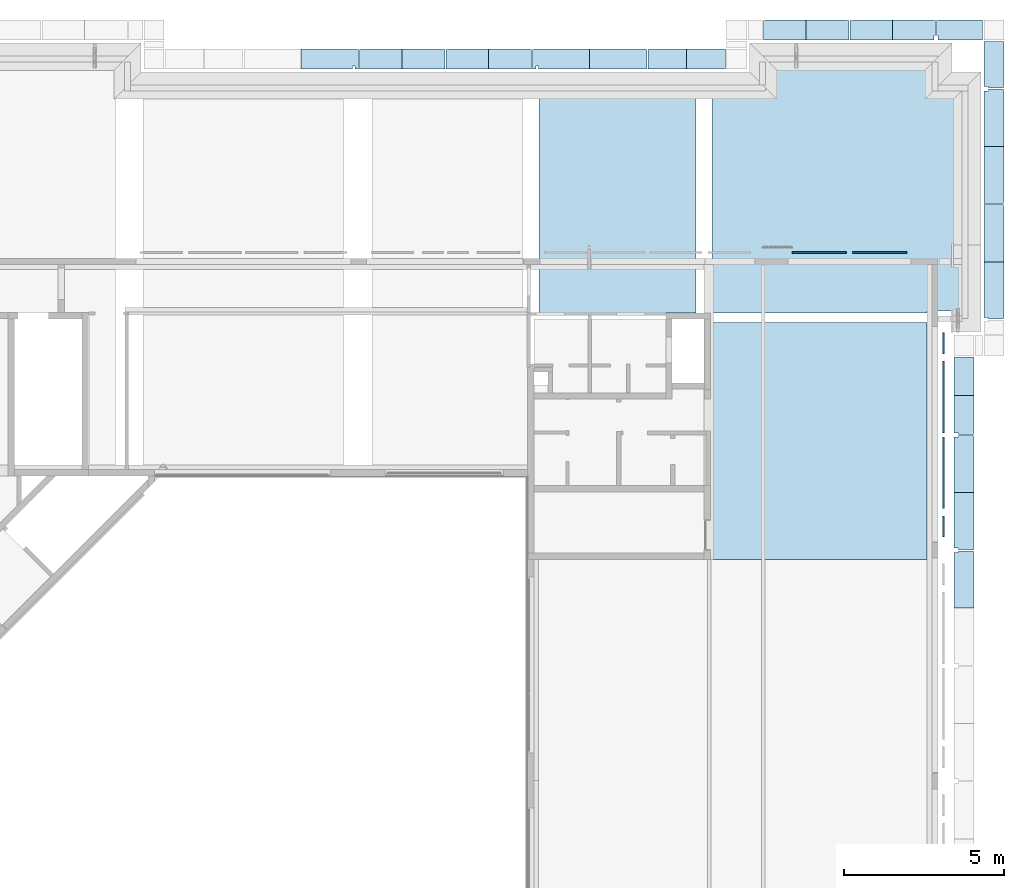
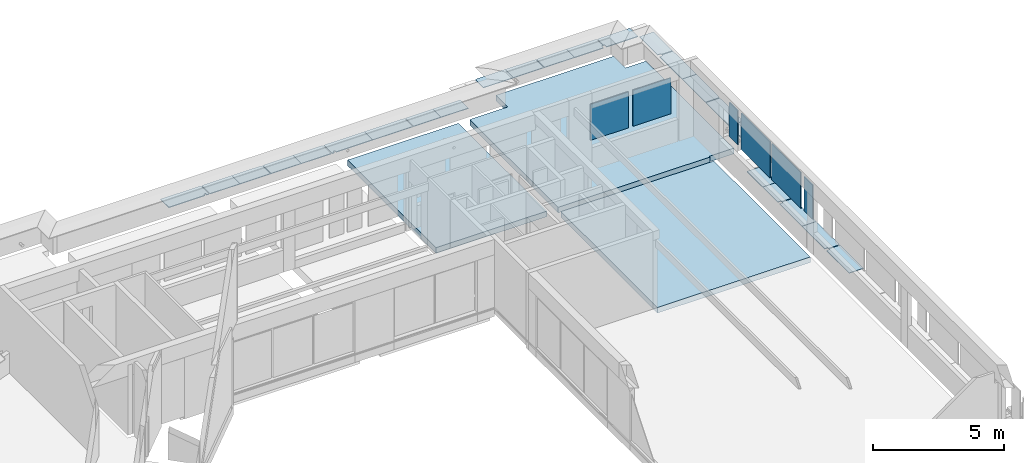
# One storey, part 7 of 38: 27 slabs, 6 plates.
"""IFC4X3_ADD2 building model written with IfcOpenShell, lengths in millimetres."""

import ifcopenshell
import ifcopenshell.guid

model = None  # the IFC model being written
_history = None  # IfcOwnerHistory: only IFC2X3 demands one
_inside = {}  # id of a spatial element -> (the spatial element, [elements in it])
_under = {}  # id of a project, library or spatial element -> (it, [spatial elements below it])
_declared = {}  # id of a project -> (the project, [libraries it declares])
_typed = {}  # id of a type object -> (the type object, [elements of that type])
_made_of = {}  # id of a material, layer set ... -> (it, [elements and type objects made of it])


def new_model(schema):
    """Start an empty IFC model of exactly this schema.

    Asked for "IFC4X3", IfcOpenShell would pick the latest addendum, in which some entities
    have other attributes; the version numbers below select the first issue.
    IFC2X3 requires an IfcOwnerHistory on every rooted entity: one is made here for all.
    """
    global model, _history
    if schema == "IFC4X3":
        model = ifcopenshell.file(schema_version=(4, 3, 0, 0))
    else:
        model = ifcopenshell.file(schema=schema)
    _inside.clear()
    _under.clear()
    _declared.clear()
    _typed.clear()
    _made_of.clear()
    _history = None
    if model.schema == "IFC2X3":
        org = make("IfcOrganization", Name="unknown")
        user = make(
            "IfcPersonAndOrganization",
            ThePerson=make("IfcPerson", FamilyName="unknown"),
            TheOrganization=org,
        )
        app = make(
            "IfcApplication",
            ApplicationDeveloper=org,
            Version="unknown",
            ApplicationFullName="unknown",
            ApplicationIdentifier="unknown",
        )
        _history = make(
            "IfcOwnerHistory",
            OwningUser=user,
            OwningApplication=app,
            ChangeAction="ADDED",
            CreationDate=0,
        )
    return model


def make(cls, **values):
    """One entity of the class cls with the attributes given. An attribute that is None is left unset."""
    return model.create_entity(
        cls, **{name: value for name, value in values.items() if value is not None}
    )


def rooted(cls, **values):
    """An entity with a GlobalId (a new one), such as an element, a storey or a relation."""
    return make(cls, GlobalId=ifcopenshell.guid.new(), OwnerHistory=_history, **values)


def si_unit(unit_type, name, prefix=None):
    """IfcSIUnit, for example si_unit("LENGTHUNIT", "METRE", prefix="MILLI")."""
    return make("IfcSIUnit", UnitType=unit_type, Prefix=prefix, Name=name)


def assignment(units):
    """IfcUnitAssignment: the units of a project."""
    return None if units is None else make("IfcUnitAssignment", Units=units)


def point(xyz):
    """IfcCartesianPoint."""
    return None if xyz is None else make("IfcCartesianPoint", Coordinates=xyz)


def direction(xyz):
    """IfcDirection."""
    return None if xyz is None else make("IfcDirection", DirectionRatios=xyz)


def frame(location, z_axis=None, x_axis=None):
    """IfcAxis2Placement3D, a coordinate frame: its origin and axes. An axis left out is left unset."""
    return make(
        "IfcAxis2Placement3D",
        Location=point(location),
        Axis=direction(z_axis),
        RefDirection=direction(x_axis),
    )


def frame_2d(location, x_axis=None):
    """IfcAxis2Placement2D, a coordinate frame in the plane: its origin and x axis."""
    return make(
        "IfcAxis2Placement2D", Location=point(location), RefDirection=direction(x_axis)
    )


def origin_with_axes():
    """The frame at (0, 0, 0) with the z axis (0, 0, 1) and the x axis (1, 0, 0) written out."""
    return frame((0.0, 0.0, 0.0), z_axis=(0.0, 0.0, 1.0), x_axis=(1.0, 0.0, 0.0))


def origin_2d_with_axis():
    """The frame at (0, 0) in the plane with the x axis (1, 0) written out."""
    return frame_2d((0.0, 0.0), x_axis=(1.0, 0.0))


def place(relative_to, where):
    """IfcLocalPlacement: puts the frame where relative to a parent placement (None: the world)."""
    return make(
        "IfcLocalPlacement", PlacementRelTo=relative_to, RelativePlacement=where
    )


def context(
    kind, dimensions, precision=None, world=None, true_north=None, identifier=None
):
    """IfcGeometricRepresentationContext, for example the 3D "Model" context."""
    return make(
        "IfcGeometricRepresentationContext",
        ContextIdentifier=identifier,
        ContextType=kind,
        CoordinateSpaceDimension=dimensions,
        Precision=precision,
        WorldCoordinateSystem=world,
        TrueNorth=true_north,
    )


def subcontext(parent, identifier, kind, view, scale=None):
    """IfcGeometricRepresentationSubContext, for example "Body" below "Model"."""
    return make(
        "IfcGeometricRepresentationSubContext",
        ContextIdentifier=identifier,
        ContextType=kind,
        ParentContext=parent,
        TargetScale=scale,
        TargetView=view,
    )


def project(units=None, contexts=None):
    """IfcProject with its units and contexts."""
    return rooted(
        "IfcProject",
        Name="project",
        RepresentationContexts=contexts,
        UnitsInContext=assignment(units),
    )


def spatial(cls, under=None, at=None, **own):
    """A site, building, storey or space (cls), placed at a placement, below another one or the project."""
    s = rooted(cls, ObjectPlacement=at, **own)
    if under is not None:
        _under.setdefault(under.id(), (under, []))[1].append(s)
    return s


def polyline(points):
    """IfcPolyline through the points."""
    return make("IfcPolyline", Points=[point(p) for p in points])


def profile(cls, at=None, kind="AREA", **sizes):
    """A parametric profile (cls). Its sizes go by their IFC names, for example OverallWidth=200.0."""
    return make(cls, ProfileType=kind, Position=at, **sizes)


def rectangle(**sizes):
    """IfcRectangleProfileDef."""
    return profile("IfcRectangleProfileDef", **sizes)


def outline(outer, holes=None, kind="AREA"):
    """IfcArbitraryClosedProfileDef: a profile drawn as a closed curve; with holes, ...WithVoids."""
    if holes is None:
        return make("IfcArbitraryClosedProfileDef", ProfileType=kind, OuterCurve=outer)
    return make(
        "IfcArbitraryProfileDefWithVoids",
        ProfileType=kind,
        OuterCurve=outer,
        InnerCurves=holes,
    )


def extrude(swept, where, along, depth):
    """IfcExtrudedAreaSolid: the profile swept, set in the frame where, extruded along a direction by depth."""
    return make(
        "IfcExtrudedAreaSolid",
        SweptArea=swept,
        Position=where,
        ExtrudedDirection=direction(along),
        Depth=depth,
    )


def shape(context_of_items, identifier, shape_type, items):
    """IfcShapeRepresentation: the items that make up one representation, for example the "Body"."""
    return make(
        "IfcShapeRepresentation",
        ContextOfItems=context_of_items,
        RepresentationIdentifier=identifier,
        RepresentationType=shape_type,
        Items=items,
    )


def source(mapping_origin, context_of_items, identifier, shape_type, items):
    """IfcRepresentationMap: a shape defined once, which mapped items show again and again."""
    return make(
        "IfcRepresentationMap",
        MappingOrigin=mapping_origin,
        MappedRepresentation=shape(context_of_items, identifier, shape_type, items),
    )


def transform(
    local_origin,
    x_axis=None,
    y_axis=None,
    z_axis=None,
    scale=None,
    scale2=None,
    scale3=None,
    uniform=True,
):
    """IfcCartesianTransformationOperator3D, or its non-uniform kind. x_axis, y_axis, z_axis: its Axis1, 2, 3."""
    if uniform:
        return make(
            "IfcCartesianTransformationOperator3D",
            Axis1=direction(x_axis),
            Axis2=direction(y_axis),
            LocalOrigin=point(local_origin),
            Scale=scale,
            Axis3=direction(z_axis),
        )
    return make(
        "IfcCartesianTransformationOperator3DnonUniform",
        Axis1=direction(x_axis),
        Axis2=direction(y_axis),
        LocalOrigin=point(local_origin),
        Scale=scale,
        Axis3=direction(z_axis),
        Scale2=scale2,
        Scale3=scale3,
    )


def mapped(mapping_source, mapping_target):
    """IfcMappedItem: shows the shape of a source again, moved by a transform."""
    return make(
        "IfcMappedItem", MappingSource=mapping_source, MappingTarget=mapping_target
    )


def material(Name=None, Category=None):
    """IfcMaterial."""
    return make("IfcMaterial", Name=Name, Category=Category)


def made_of(thing, what):
    """Note that an element or type object is made of a material, layer set ...; save() writes the relation."""
    if what is not None:
        _made_of.setdefault(what.id(), (what, []))[1].append(thing)
    return thing


def type_object(cls, material=None, **own):
    """A type object (cls), such as IfcWallType, which elements share."""
    return made_of(rooted(cls, **own), material)


def element(
    cls,
    number,
    at=None,
    inside=None,
    cuts=None,
    type_object=None,
    material=None,
    context=None,
    identifier="Body",
    shape_type=None,
    held_by="IfcProductDefinitionShape",
    body=None,
    shapes=None,
    **own,
):
    """One element of the class cls, such as IfcWall. Its Tag is "e" and its number.

    at: its placement. inside: the storey or other place that contains it. cuts: it is an
    opening in that element (IfcRelVoidsElement). A single representation is given by context,
    identifier, shape_type and body (its items); several are given by shapes. held_by: the class
    of the entity that holds the representations. save() writes the other relations.
    """
    e = rooted(cls, Tag="e%d" % number, ObjectPlacement=at, **own)
    if body is not None:
        shapes = [shape(context, identifier, shape_type, body)]
    if shapes is not None:
        e.Representation = make(held_by, Representations=shapes)
    if inside is not None:
        _inside.setdefault(inside.id(), (inside, []))[1].append(e)
    if cuts is not None:
        rooted(
            "IfcRelVoidsElement", RelatingBuildingElement=cuts, RelatedOpeningElement=e
        )
    if type_object is not None:
        _typed.setdefault(type_object.id(), (type_object, []))[1].append(e)
    return made_of(e, material)


def aggregate(whole, parts):
    """IfcRelAggregates: a whole, such as a stair, and the parts it consists of."""
    return rooted("IfcRelAggregates", RelatingObject=whole, RelatedObjects=parts)


def save(model, path):
    """Write the relations noted so far, then the file.

    IfcRelAggregates (storeys below a building ...), IfcRelContainedInSpatialStructure (elements
    in a storey), IfcRelDefinesByType, IfcRelAssociatesMaterial and IfcRelDeclares: one each for
    every whole, place, type object, material and project.
    """
    for whole, parts in _under.values():
        aggregate(whole, parts)
    for where, things in _inside.values():
        rooted(
            "IfcRelContainedInSpatialStructure",
            RelatedElements=things,
            RelatingStructure=where,
        )
    for kind, things in _typed.values():
        rooted("IfcRelDefinesByType", RelatedObjects=things, RelatingType=kind)
    for what, things in _made_of.values():
        rooted("IfcRelAssociatesMaterial", RelatedObjects=things, RelatingMaterial=what)
    for by, libraries in _declared.values():
        rooted("IfcRelDeclares", RelatingContext=by, RelatedDefinitions=libraries)
    model.write(path)


model = new_model("IFC4X3_ADD2")

# Units and contexts
model_context = context("Model", 3, precision=1e-05, world=origin_with_axes(), true_north=direction((0.0, 1.0)))
body_context = subcontext(model_context, "Body", "Model", "MODEL_VIEW")
ifc_project = project(units=[si_unit("LENGTHUNIT", "METRE", prefix="MILLI"), si_unit("AREAUNIT", "SQUARE_METRE"), si_unit("VOLUMEUNIT", "CUBIC_METRE"), si_unit("PLANEANGLEUNIT", "RADIAN"), si_unit("TIMEUNIT", "SECOND"), si_unit("MASSUNIT", "GRAM")], contexts=[model_context])

# Site, building, storey
site_placement = place(None, origin_with_axes())
site = spatial("IfcSite", under=ifc_project, at=site_placement, Name="Site", CompositionType="ELEMENT")
building_placement = place(site_placement, origin_with_axes())
building = spatial("IfcBuilding", under=site, at=building_placement, Name="IFC Building Story")
storey_placement = place(building_placement, frame((0.0, 0.0, 10800.0), z_axis=(0.0, 0.0, 1.0), x_axis=(1.0, 0.0, 0.0)))
storey = spatial("IfcBuildingStorey", under=building, at=storey_placement, Name="030", Elevation=10800.0)

# Plates
ifc_material_1 = material(Name="BB_Glas")
shared_shape_1 = source(origin_with_axes(), body_context, "Body", "SweptSolid", [
    extrude(rectangle(XDim=1602.000000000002, YDim=652.0000000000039, at=frame_2d((0.0, 0.0), x_axis=(0.0, 1.0))), frame((0.0, 0.0, -44.0), z_axis=(0.0, 0.0, 1.0), x_axis=(1.0, 0.0, 0.0)), (0.0, 0.0, 1.0), 44.0),
])
for number, where, z_axis, x_axis in (
    (1, (287.500000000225, 42736.0, 1765.0), (1.0, 0.0, 0.0), (0.0, -1.0, 0.0)),
    (2, (287.500000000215, 37024.0, 1765.0), (1.0, 0.0, 0.0), (0.0, -1.0, 0.0)),
):
    element("IfcPlate", number, at=place(storey_placement, frame(where, z_axis=z_axis, x_axis=x_axis)), inside=storey, material=ifc_material_1, Name="BB_07.06_Buitenbeglazing, rechthoekig_GMO:07.06.72#01_Drievoudige beglazing, 44 mm, A/A*/A", ObjectType="BB_07.06_Buitenbeglazing, rechthoekig_GMO:07.06.72#01_Drievoudige beglazing, 44 mm, A/A*/A", PredefinedType="USERDEFINED", context=body_context, shape_type="MappedRepresentation", body=[
        mapped(shared_shape_1, transform((0.0, 0.0, 0.0))),
    ])
shared_shape_2 = source(origin_with_axes(), body_context, "Body", "SweptSolid", [
    extrude(rectangle(XDim=2222.0, YDim=1680.000000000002, at=origin_2d_with_axis()), frame((0.0, 0.0, -44.0), z_axis=(0.0, 0.0, 1.0), x_axis=(1.0, 0.0, 0.0)), (0.0, 0.0, 1.0), 44.0),
])
for number, where, z_axis, x_axis in (
    (3, (287.500000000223, 41061.0, 1765.0), (1.0, 0.0, 0.0), (0.0, -1.0, 0.0)),
    (4, (287.50000000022, 38699.0, 1765.0), (1.0, 0.0, 0.0), (0.0, -1.0, 0.0)),
):
    element("IfcPlate", number, at=place(storey_placement, frame(where, z_axis=z_axis, x_axis=x_axis)), inside=storey, material=ifc_material_1, Name="BB_07.06_Buitenbeglazing, rechthoekig_GMO:07.06.72#01_Drievoudige beglazing, 44 mm, A/A*/A", ObjectType="BB_07.06_Buitenbeglazing, rechthoekig_GMO:07.06.72#01_Drievoudige beglazing, 44 mm, A/A*/A", PredefinedType="USERDEFINED", context=body_context, shape_type="MappedRepresentation", body=[
        mapped(shared_shape_2, transform((0.0, 0.0, 0.0))),
    ])
shared_shape_3 = source(origin_with_axes(), body_context, "Body", "SweptSolid", [
    extrude(rectangle(XDim=1680.000000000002, YDim=1680.000000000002, at=origin_2d_with_axis()), frame((0.0, 0.0, -44.0), z_axis=(0.0, 0.0, 1.0), x_axis=(1.0, 0.0, 0.0)), (0.0, 0.0, 1.0), 44.0),
])
for number, where, z_axis, x_axis in (
    (5, (-3605.0, 45587.5, 1765.0), (0.0, 1.0, 0.0), (1.0, 0.0, 0.0)),
    (6, (-1725.0, 45587.5, 1765.0), (0.0, 1.0, 0.0), (1.0, 0.0, 0.0)),
):
    element("IfcPlate", number, at=place(storey_placement, frame(where, z_axis=z_axis, x_axis=x_axis)), inside=storey, material=ifc_material_1, Name="BB_07.06_Buitenbeglazing, rechthoekig_GMO:07.06.72#01_Drievoudige beglazing, 44 mm, A/A*/A", ObjectType="BB_07.06_Buitenbeglazing, rechthoekig_GMO:07.06.72#01_Drievoudige beglazing, 44 mm, A/A*/A", PredefinedType="USERDEFINED", context=body_context, shape_type="MappedRepresentation", body=[
        mapped(shared_shape_3, transform((0.0, 0.0, 0.0))),
    ])

# Slabs
ifc_material_2 = material(Name="BB_Beton_Bestaand")
slab_type_1 = type_object("IfcSlabType", Name="BB_Beton_Bestaand 260", PredefinedType="FLOOR", material=ifc_material_2)
slab_1_placement = place(storey_placement, frame((-12350.00000000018, 50454.99999999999, -459.9999999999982), z_axis=(0.0, 0.0, 1.0), x_axis=(0.0, -1.0, 0.0)))
element("IfcSlab", 7, at=slab_1_placement, inside=storey, type_object=slab_type_1, Name="Floor:BB_XX_Vloer welfsels, 260 mm", ObjectType="Floor:BB_XX_Vloer welfsels, 260 mm", PredefinedType="FLOOR", context=body_context, shape_type="SweptSolid", body=[
    extrude(rectangle(XDim=6764.999999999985, YDim=4900.00000000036, at=frame_2d((0.0, 0.0), x_axis=(-1.0, 0.0))), frame((3382.499999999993, 2450.00000000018, 0.0), z_axis=(0.0, 0.0, 1.0), x_axis=(1.0, 0.0, 0.0)), (0.0, 0.0, 1.0), 259.999999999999),
])
slab_2_placement = place(storey_placement, frame((-6949.99999999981, 43689.99999999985, -459.9999999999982), z_axis=(0.0, 0.0, 1.0), x_axis=(1.0, 0.0, 0.0)))
element("IfcSlab", 8, at=slab_2_placement, inside=storey, type_object=slab_type_1, Name="Floor:BB_XX_Vloer welfsels, 260 mm", ObjectType="Floor:BB_XX_Vloer welfsels, 260 mm", PredefinedType="FLOOR", context=body_context, shape_type="SweptSolid", body=[
    extrude(outline(polyline([(2091.999999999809, -4194.99999999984), (2091.999999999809, -4250.000000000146), (-4612.999999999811, -4250.000000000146), (-4612.999999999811, 2514.999999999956), (-2933.000000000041, 2514.999999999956), (-2933.000000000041, 3414.999999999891), (2277.000000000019, 3414.999999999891), (2277.000000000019, 2515.000000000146), (3177.00000000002, 2515.000000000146), (3177.00000000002, -4194.99999999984), (2091.999999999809, -4194.99999999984)])), frame((4612.999999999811, 4250.000000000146, 0.0), z_axis=(0.0, 0.0, 1.0), x_axis=(1.0, 0.0, 0.0)), (0.0, 0.0, 1.0), 259.999999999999),
])
slab_3_placement = place(storey_placement, frame((-7000.0000000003, 43389.99999999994, -459.9999999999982), z_axis=(0.0, 0.0, 1.0), x_axis=(0.0, -1.0, 0.0)))
element("IfcSlab", 9, at=slab_3_placement, inside=storey, type_object=slab_type_1, Name="Floor:BB_XX_Vloer welfsels, 260 mm", ObjectType="Floor:BB_XX_Vloer welfsels, 260 mm", PredefinedType="FLOOR", context=body_context, shape_type="SweptSolid", body=[
    extrude(rectangle(XDim=7389.999999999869, YDim=6755.00000000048, at=frame_2d((0.0, 0.0), x_axis=(-1.0, 0.0))), frame((3694.999999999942, 3377.50000000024, 0.0), z_axis=(0.0, 0.0, 1.0), x_axis=(1.0, 0.0, 0.0)), (0.0, 0.0, 1.0), 259.999999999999),
])
ifc_material_3 = material(Name="Steel, Galvanized - looprooster")
slab_type_2 = type_object("IfcSlabType", Name="Steel, Galvanized - looprooster 30", PredefinedType="FLOOR", material=ifc_material_3)
slab_4_placement = place(storey_placement, frame((-19764.49796376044, 51289.99839785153, -350.0), z_axis=(0.0, 0.0, 1.0), x_axis=(1.0, 0.0, 0.0)))
element("IfcSlab", 10, at=slab_4_placement, inside=storey, type_object=slab_type_2, Name="Floor:GVH - Looprooster 30 mm", ObjectType="Floor:GVH - Looprooster 30 mm", PredefinedType="FLOOR", context=body_context, shape_type="SweptSolid", body=[
    extrude(outline(polyline([(240.297614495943, -176.9978943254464), (240.297614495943, -267.0010986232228), (-1359.200385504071, -267.0010986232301), (-1359.200385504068, 362.9989013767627), (373.307542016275, 362.9989013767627), (373.307542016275, 348.0011901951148), (425.2976144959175, 348.0011901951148), (425.2976144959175, -267.0010986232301), (320.2976144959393, -267.0010986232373), (320.2976144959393, -176.9978943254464), (240.297614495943, -176.9978943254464)])), frame((1359.200385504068, 267.0010986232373, 0.0), z_axis=(0.0, 0.0, 1.0), x_axis=(1.0, 0.0, 0.0)), (0.0, 0.0, 1.0), 29.99999999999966),
])
slab_5_placement = place(storey_placement, frame((-16614.99796376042, 51289.99839785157, -350.0), z_axis=(0.0, 0.0, 1.0), x_axis=(1.0, 0.0, 0.0)))
element("IfcSlab", 11, at=slab_5_placement, inside=storey, type_object=slab_type_2, Name="Floor:GVH - Looprooster 30 mm", ObjectType="Floor:GVH - Looprooster 30 mm", PredefinedType="FLOOR", context=body_context, shape_type="SweptSolid", body=[
    extrude(outline(polyline([(473.9993333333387, 200.0011600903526), (473.9993333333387, -415.000580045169), (-860.998666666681, -415.000580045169), (-860.998666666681, 214.9994199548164), (386.9993333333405, 214.9994199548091), (386.9993333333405, 200.0011600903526), (473.9993333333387, 200.0011600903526)])), frame((860.998666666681, 415.000580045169, 0.0), z_axis=(0.0, 0.0, 1.0), x_axis=(1.0, 0.0, 0.0)), (0.0, 0.0, 1.0), 29.99999999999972),
])
slab_6_placement = place(storey_placement, frame((-4015.00196376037, 52189.99783771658, -350.0), z_axis=(0.0, 0.0, 1.0), x_axis=(1.0, 0.0, 0.0)))
element("IfcSlab", 12, at=slab_6_placement, inside=storey, type_object=slab_type_2, Name="Floor:GVH - Looprooster 30 mm", ObjectType="Floor:GVH - Looprooster 30 mm", PredefinedType="FLOOR", context=body_context, shape_type="SweptSolid", body=[
    extrude(outline(polyline([(474.0006547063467, 200.0015335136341), (474.0006547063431, -415.0007667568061), (-861.0013452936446, -415.0007667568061), (-861.001345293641, 214.9992332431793), (387.0006905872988, 214.9992332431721), (387.0006905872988, 200.0015335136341), (474.0006547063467, 200.0015335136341)])), frame((861.001345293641, 415.0007667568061, 0.0), z_axis=(0.0, 0.0, 1.0), x_axis=(1.0, 0.0, 0.0)), (0.0, 0.0, 1.0), 29.99999999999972),
])
slab_7_placement = place(storey_placement, frame((589.998741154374, 41102.49796376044, -350.0), z_axis=(0.0, 0.0, 1.0), x_axis=(0.0, -1.0, 0.0)))
element("IfcSlab", 13, at=slab_7_placement, inside=storey, type_object=slab_type_2, Name="Floor:GVH - Looprooster 30 mm", ObjectType="Floor:GVH - Looprooster 30 mm", PredefinedType="FLOOR", context=body_context, shape_type="SweptSolid", body=[
    extrude(outline(polyline([(327.8744999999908, -202.4983463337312), (275.8744999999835, -202.4983463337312), (275.8744999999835, -347.5004367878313), (-879.6234999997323, -347.5004367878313), (-879.6234999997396, 282.4992199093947), (275.8744999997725, 282.4992199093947), (275.8744999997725, 267.4995632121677), (327.8744999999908, 267.4995632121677), (327.8744999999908, -202.4983463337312)])), frame((879.6234999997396, 347.5004367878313, 0.0), z_axis=(0.0, 0.0, 1.0), x_axis=(1.0, 0.0, 0.0)), (0.0, 0.0, 1.0), 29.99999999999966),
])
slab_8_placement = place(storey_placement, frame((589.998741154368, 38079.49796376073, -350.0), z_axis=(0.0, 0.0, 1.0), x_axis=(0.0, -1.0, 0.0)))
element("IfcSlab", 14, at=slab_8_placement, inside=storey, type_object=slab_type_2, Name="Floor:GVH - Looprooster 30 mm", ObjectType="Floor:GVH - Looprooster 30 mm", PredefinedType="FLOOR", context=body_context, shape_type="SweptSolid", body=[
    extrude(outline(polyline([(472.1244999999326, -202.4983406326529), (420.1244999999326, -202.4983406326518), (420.1244999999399, -347.5004386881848), (-1312.373499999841, -347.5004386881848), (-1312.373499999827, 282.4992180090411), (420.1244999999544, 282.4992180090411), (420.1244999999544, 267.4995613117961), (472.1244999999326, 267.4995613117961), (472.1244999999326, -202.4983406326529)])), frame((1312.373499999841, 347.5004386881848, 0.0), z_axis=(0.0, 0.0, 1.0), x_axis=(1.0, 0.0, 0.0)), (0.0, 0.0, 1.0), 29.99999999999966),
])
slab_9_placement = place(storey_placement, frame((-17949.99596376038, 51289.99839785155, -350.0), z_axis=(0.0, 0.0, 1.0), x_axis=(1.0, 0.0, 0.0)))
element("IfcSlab", 15, at=slab_9_placement, inside=storey, type_object=slab_type_2, Name="Floor:GVH - Looprooster 30 mm", ObjectType="Floor:GVH - Looprooster 30 mm", PredefinedType="FLOOR", context=body_context, shape_type="SweptSolid", body=[
    extrude(outline(polyline([(872.6633574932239, 214.9994199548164), (872.6633574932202, -415.000580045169), (-462.3346425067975, -415.000580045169), (-462.3346425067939, 200.0011600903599), (-410.3287149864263, 200.0011600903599), (-410.3287149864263, 214.9994199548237), (872.6633574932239, 214.9994199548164)])), frame((462.3346425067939, 415.000580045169, 0.0), z_axis=(0.0, 0.0, 1.0), x_axis=(1.0, 0.0, 0.0)), (0.0, 0.0, 1.0), 29.99999999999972),
])
slab_10_placement = place(storey_placement, frame((-13914.49796376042, 51289.99797688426, -350.0), z_axis=(0.0, 0.0, 1.0), x_axis=(1.0, 0.0, 0.0)))
element("IfcSlab", 16, at=slab_10_placement, inside=storey, type_object=slab_type_2, Name="Floor:GVH - Looprooster 30 mm", ObjectType="Floor:GVH - Looprooster 30 mm", PredefinedType="FLOOR", context=body_context, shape_type="SweptSolid", body=[
    extrude(outline(polyline([(462.1626908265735, 200.0011600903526), (462.1626908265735, -415.0005800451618), (-872.3353091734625, -415.0005800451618), (-872.3353091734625, 214.9994199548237), (410.1726183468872, 214.9994199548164), (410.1726183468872, 200.0011600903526), (462.1626908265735, 200.0011600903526)])), frame((872.3353091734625, 415.0005800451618, 0.0), z_axis=(0.0, 0.0, 1.0), x_axis=(1.0, 0.0, 0.0)), (0.0, 0.0, 1.0), 29.99999999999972),
])
slab_11_placement = place(storey_placement, frame((-15249.9959637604, 51289.99797688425, -350.0), z_axis=(0.0, 0.0, 1.0), x_axis=(1.0, 0.0, 0.0)))
element("IfcSlab", 17, at=slab_11_placement, inside=storey, type_object=slab_type_2, Name="Floor:GVH - Looprooster 30 mm", ObjectType="Floor:GVH - Looprooster 30 mm", PredefinedType="FLOOR", context=body_context, shape_type="SweptSolid", body=[
    extrude(outline(polyline([(860.9973333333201, 214.9994199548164), (860.9973333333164, -415.000580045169), (-473.9966666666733, -415.000580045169), (-473.9966666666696, 200.0011600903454), (-387.0006666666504, 200.0011600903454), (-387.0006666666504, 214.9994199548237), (860.9973333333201, 214.9994199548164)])), frame((473.9966666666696, 415.000580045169, 0.0), z_axis=(0.0, 0.0, 1.0), x_axis=(1.0, 0.0, 0.0)), (0.0, 0.0, 1.0), 29.99999999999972),
])
slab_12_placement = place(storey_placement, frame((-12549.99596376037, 51289.99839785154, -350.0), z_axis=(0.0, 0.0, 1.0), x_axis=(1.0, 0.0, 0.0)))
element("IfcSlab", 18, at=slab_12_placement, inside=storey, type_object=slab_type_2, Name="Floor:GVH - Looprooster 30 mm", ObjectType="Floor:GVH - Looprooster 30 mm", PredefinedType="FLOOR", context=body_context, shape_type="SweptSolid", body=[
    extrude(outline(polyline([(-320.299985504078, -176.9978943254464), (-320.299985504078, -267.0010986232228), (-425.2999855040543, -267.0010986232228), (-425.2999855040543, 348.0011901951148), (-373.2940579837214, 348.0011901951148), (-373.2940579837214, 362.9989013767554), (1359.19401449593, 362.9989013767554), (1359.19401449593, -267.0010986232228), (-240.299985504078, -267.0010986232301), (-240.299985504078, -176.9978943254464), (-320.299985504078, -176.9978943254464)])), frame((425.2999855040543, 267.0010986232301, 0.0), z_axis=(0.0, 0.0, 1.0), x_axis=(1.0, 0.0, 0.0)), (0.0, 0.0, 1.0), 29.99999999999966),
])
slab_13_placement = place(storey_placement, frame((-10764.49796185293, 51289.99839785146, -350.0), z_axis=(0.0, 0.0, 1.0), x_axis=(1.0, 0.0, 0.0)))
element("IfcSlab", 19, at=slab_13_placement, inside=storey, type_object=slab_type_2, Name="Floor:GVH - Looprooster 30 mm", ObjectType="Floor:GVH - Looprooster 30 mm", PredefinedType="FLOOR", context=body_context, shape_type="SweptSolid", body=[
    extrude(outline(polyline([(612.1653568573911, 200.001525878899), (612.1653568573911, -415.0007629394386), (-1172.336641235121, -415.0007629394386), (-1172.336641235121, 214.9992370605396), (560.1712843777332, 214.9992370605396), (560.1712843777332, 200.001525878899), (612.1653568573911, 200.001525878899)])), frame((1172.336641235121, 415.0007629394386, 0.0), z_axis=(0.0, 0.0, 1.0), x_axis=(1.0, 0.0, 0.0)), (0.0, 0.0, 1.0), 29.99999999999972),
])
slab_14_placement = place(storey_placement, frame((-8949.999963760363, 51289.99595649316, -350.0), z_axis=(0.0, 0.0, 1.0), x_axis=(1.0, 0.0, 0.0)))
element("IfcSlab", 20, at=slab_14_placement, inside=storey, type_object=slab_type_2, Name="Floor:GVH - Looprooster 30 mm", ObjectType="Floor:GVH - Looprooster 30 mm", PredefinedType="FLOOR", context=body_context, shape_type="SweptSolid", body=[
    extrude(outline(polyline([(788.0019758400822, 214.9994199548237), (788.0019758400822, -415.000580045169), (-420.0059516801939, -415.000580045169), (-420.0059516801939, 200.0011600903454), (-367.9960241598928, 200.0011600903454), (-367.9960241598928, 214.9994199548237), (788.0019758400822, 214.9994199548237)])), frame((420.0059516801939, 415.000580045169, 0.0), z_axis=(0.0, 0.0, 1.0), x_axis=(1.0, 0.0, 0.0)), (0.0, 0.0, 1.0), 29.99999999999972),
])
slab_15_placement = place(storey_placement, frame((-7740.996741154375, 51289.9959564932, -350.0), z_axis=(0.0, 0.0, 1.0), x_axis=(1.0, 0.0, 0.0)))
element("IfcSlab", 21, at=slab_15_placement, inside=storey, type_object=slab_type_2, Name="Floor:GVH - Looprooster 30 mm", ObjectType="Floor:GVH - Looprooster 30 mm", PredefinedType="FLOOR", context=body_context, shape_type="SweptSolid", body=[
    extrude(rectangle(XDim=1207.495482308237, YDim=629.9999999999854, at=origin_2d_with_axis()), frame((603.7477411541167, 315.0, 0.0), z_axis=(0.0, 0.0, 1.0), x_axis=(1.0, 0.0, 0.0)), (0.0, 0.0, 1.0), 29.99999999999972),
])
slab_16_placement = place(storey_placement, frame((589.998741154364, 36265.00000000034, -350.0), z_axis=(0.0, 0.0, 1.0), x_axis=(0.0, -1.0, 0.0)))
element("IfcSlab", 22, at=slab_16_placement, inside=storey, type_object=slab_type_2, Name="Floor:GVH - Looprooster 30 mm", ObjectType="Floor:GVH - Looprooster 30 mm", PredefinedType="FLOOR", context=body_context, shape_type="SweptSolid", body=[
    extrude(outline(polyline([(-420.2494637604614, 282.499218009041), (1312.748500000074, 282.499218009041), (1312.748500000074, -347.500438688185), (-420.249536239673, -347.500438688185), (-420.249536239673, -202.498340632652), (-472.2494999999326, -202.498340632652), (-472.2494999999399, 267.499561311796), (-420.2494637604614, 267.499561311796), (-420.2494637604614, 282.499218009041)])), frame((472.2494999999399, 347.500438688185, 0.0), z_axis=(0.0, 0.0, 1.0), x_axis=(1.0, 0.0, 0.0)), (0.0, 0.0, 1.0), 29.99999999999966),
])
slab_17_placement = place(storey_placement, frame((-2649.999963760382, 52189.99783771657, -350.0), z_axis=(0.0, 0.0, 1.0), x_axis=(1.0, 0.0, 0.0)))
element("IfcSlab", 23, at=slab_17_placement, inside=storey, type_object=slab_type_2, Name="Floor:GVH - Looprooster 30 mm", ObjectType="Floor:GVH - Looprooster 30 mm", PredefinedType="FLOOR", context=body_context, shape_type="SweptSolid", body=[
    extrude(outline(polyline([(861.0013230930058, 214.9992332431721), (861.0013230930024, -415.0007667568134), (-474.000676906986, -415.0007667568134), (-474.0006769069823, 200.0015335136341), (-387.0006461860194, 200.0015335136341), (-387.0006461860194, 214.9992332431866), (861.0013230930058, 214.9992332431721)])), frame((474.0006769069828, 415.0007667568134, 0.0), z_axis=(0.0, 0.0, 1.0), x_axis=(1.0, 0.0, 0.0)), (0.0, 0.0, 1.0), 29.99999999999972),
])
slab_18_placement = place(storey_placement, frame((-1314.498088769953, 52189.99783771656, -350.0), z_axis=(0.0, 0.0, 1.0), x_axis=(1.0, 0.0, 0.0)))
element("IfcSlab", 24, at=slab_18_placement, inside=storey, type_object=slab_type_2, Name="Floor:GVH - Looprooster 30 mm", ObjectType="Floor:GVH - Looprooster 30 mm", PredefinedType="FLOOR", context=body_context, shape_type="SweptSolid", body=[
    extrude(outline(polyline([(307.6265502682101, -202.4983239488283), (307.6265502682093, -347.5013254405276), (-974.8755747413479, -347.5013254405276), (-974.8755747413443, 282.4986745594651), (307.6224742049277, 282.4986745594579), (307.6224742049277, 267.5009748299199), (359.6265502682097, 267.5009748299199), (359.626550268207, -202.4983239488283), (307.6265502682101, -202.4983239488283)])), frame((974.8755747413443, 347.5013254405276, 0.0), z_axis=(0.0, 0.0, 1.0), x_axis=(1.0, 0.0, 0.0)), (0.0, 0.0, 1.0), 29.99999999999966),
])
slab_19_placement = place(storey_placement, frame((50.00003623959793, 52189.99783771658, -350.0), z_axis=(0.0, 0.0, 1.0), x_axis=(1.0, 0.0, 0.0)))
element("IfcSlab", 25, at=slab_19_placement, inside=storey, type_object=slab_type_2, Name="Floor:GVH - Looprooster 30 mm", ObjectType="Floor:GVH - Looprooster 30 mm", PredefinedType="FLOOR", context=body_context, shape_type="SweptSolid", body=[
    extrude(outline(polyline([(-333.1274452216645, -347.5013254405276), (-333.1274452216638, -202.4983239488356), (-385.1274452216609, -202.4983239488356), (-385.1274452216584, 267.5009748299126), (-333.1275212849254, 267.5009748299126), (-333.1275212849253, 282.4986745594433), (1051.382411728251, 282.4986745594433), (1051.382411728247, -347.5013254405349), (-333.1274452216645, -347.5013254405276)])), frame((385.1274452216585, 347.5013254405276, 0.0), z_axis=(0.0, 0.0, 1.0), x_axis=(1.0, 0.0, 0.0)), (0.0, 0.0, 1.0), 29.99999999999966),
])
slab_20_placement = place(storey_placement, frame((589.998741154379, 39864.99996376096, -350.0), z_axis=(0.0, 0.0, 1.0), x_axis=(0.0, -1.0, 0.0)))
element("IfcSlab", 26, at=slab_20_placement, inside=storey, type_object=slab_type_2, Name="Floor:GVH - Looprooster 30 mm", ObjectType="Floor:GVH - Looprooster 30 mm", PredefinedType="FLOOR", context=body_context, shape_type="SweptSolid", body=[
    extrude(outline(polyline([(-420.1254818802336, 282.4992180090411), (1312.372518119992, 282.4992180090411), (1312.372518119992, -347.5004386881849), (-420.1215543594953, -347.5004386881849), (-420.1215543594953, -202.4983406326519), (-472.1254818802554, -202.4983406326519), (-472.1254818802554, 267.4995613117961), (-420.1254818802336, 267.4995613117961), (-420.1254818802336, 282.4992180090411)])), frame((472.1254818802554, 347.5004386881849, 0.0), z_axis=(0.0, 0.0, 1.0), x_axis=(1.0, 0.0, 0.0)), (0.0, 0.0, 1.0), 29.99999999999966),
])
slab_21_placement = place(storey_placement, frame((589.998741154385, 42311.50010681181, -350.0), z_axis=(0.0, 0.0, 1.0), x_axis=(0.0, -1.0, 0.0)))
element("IfcSlab", 27, at=slab_21_placement, inside=storey, type_object=slab_type_2, Name="Floor:GVH - Looprooster 30 mm", ObjectType="Floor:GVH - Looprooster 30 mm", PredefinedType="FLOOR", context=body_context, shape_type="SweptSolid", body=[
    extrude(rectangle(XDim=1207.998000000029, YDim=629.9996566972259, at=frame_2d((0.0, 0.0), x_axis=(-1.0, 0.0))), frame((603.9990000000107, 314.9998283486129, 0.0), z_axis=(0.0, 0.0, 1.0), x_axis=(1.0, 0.0, 0.0)), (0.0, 0.0, 1.0), 29.99999999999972),
])
slab_22_placement = place(storey_placement, frame((-5350.00396376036, 52189.99783771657, -350.0), z_axis=(0.0, 0.0, 1.0), x_axis=(1.0, 0.0, 0.0)))
element("IfcSlab", 28, at=slab_22_placement, inside=storey, type_object=slab_type_2, Name="Floor:GVH - Looprooster 30 mm", ObjectType="Floor:GVH - Looprooster 30 mm", PredefinedType="FLOOR", context=body_context, shape_type="SweptSolid", body=[
    extrude(outline(polyline([(872.3333226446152, 214.9992332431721), (872.333322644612, -415.0007667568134), (-462.1686792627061, -415.0007667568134), (-462.1686792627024, 200.0015335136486), (-410.1646433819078, 200.0015335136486), (-410.1646433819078, 214.9992332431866), (872.3333226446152, 214.9992332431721)])), frame((462.1686792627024, 415.0007667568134, 0.0), z_axis=(0.0, 0.0, 1.0), x_axis=(1.0, 0.0, 0.0)), (0.0, 0.0, 1.0), 29.99999999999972),
])
slab_23_placement = place(storey_placement, frame((1524.998741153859, 52151.49874115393, -350.0), z_axis=(0.0, 0.0, 1.0), x_axis=(0.0, -1.0, 0.0)))
element("IfcSlab", 29, at=slab_23_placement, inside=storey, type_object=slab_type_2, Name="Floor:GVH - Looprooster 30 mm", ObjectType="Floor:GVH - Looprooster 30 mm", PredefinedType="FLOOR", context=body_context, shape_type="SweptSolid", body=[
    extrude(outline(polyline([(390.124694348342, -202.4983463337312), (338.1246943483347, -202.4983463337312), (338.1246943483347, -347.5004367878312), (-1066.374083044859, -347.5004367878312), (-1066.374083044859, 282.4992199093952), (338.1246943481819, 282.4992199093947), (338.1246943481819, 267.4995632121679), (390.1246943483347, 267.4995632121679), (390.124694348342, -202.4983463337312)])), frame((1066.374083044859, 347.5004367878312, 0.0), z_axis=(0.0, 0.0, 1.0), x_axis=(1.0, 0.0, 0.0)), (0.0, 0.0, 1.0), 29.99999999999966),
])
slab_24_placement = place(storey_placement, frame((1524.998741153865, 50664.99600000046, -350.0), z_axis=(0.0, 0.0, 1.0), x_axis=(0.0, -1.0, 0.0)))
element("IfcSlab", 30, at=slab_24_placement, inside=storey, type_object=slab_type_2, Name="Floor:GVH - Looprooster 30 mm", ObjectType="Floor:GVH - Looprooster 30 mm", PredefinedType="FLOOR", context=body_context, shape_type="SweptSolid", body=[
    extrude(outline(polyline([(-420.2524637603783, 282.4992180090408), (1312.749500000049, 282.4992180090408), (1312.749500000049, -347.5004386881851), (-420.2485362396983, -347.5004386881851), (-420.2485362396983, -202.4983406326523), (-472.2484999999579, -202.4983406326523), (-472.2484999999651, 267.4995613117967), (-420.2524637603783, 267.4995613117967), (-420.2524637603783, 282.4992180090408)])), frame((472.2484999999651, 347.5004386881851, 0.0), z_axis=(0.0, 0.0, 1.0), x_axis=(1.0, 0.0, 0.0)), (0.0, 0.0, 1.0), 29.99999999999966),
])
slab_25_placement = place(storey_placement, frame((1524.998741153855, 48879.49639785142, -350.0), z_axis=(0.0, 0.0, 1.0), x_axis=(0.0, -1.0, 0.0)))
element("IfcSlab", 31, at=slab_25_placement, inside=storey, type_object=slab_type_2, Name="Floor:GVH - Looprooster 30 mm", ObjectType="Floor:GVH - Looprooster 30 mm", PredefinedType="FLOOR", context=body_context, shape_type="SweptSolid", body=[
    extrude(outline(polyline([(536.8321567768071, 200.0001144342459), (623.8321205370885, 200.0001144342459), (623.8321205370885, -414.9998855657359), (-1160.66427731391, -414.9998855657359), (-1160.66427731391, 214.99977113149), (536.8321567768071, 214.9997711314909), (536.8321567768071, 200.0001144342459)])), frame((1160.66427731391, 414.9998855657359, 0.0), z_axis=(0.0, 0.0, 1.0), x_axis=(1.0, 0.0, 0.0)), (0.0, 0.0, 1.0), 29.99999999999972),
])
slab_26_placement = place(storey_placement, frame((1524.998741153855, 47064.99839785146, -350.0), z_axis=(0.0, 0.0, 1.0), x_axis=(0.0, -1.0, 0.0)))
element("IfcSlab", 32, at=slab_26_placement, inside=storey, type_object=slab_type_2, Name="Floor:GVH - Looprooster 30 mm", ObjectType="Floor:GVH - Looprooster 30 mm", PredefinedType="FLOOR", context=body_context, shape_type="SweptSolid", body=[
    extrude(outline(polyline([(-536.9992379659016, 214.9997711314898), (1160.998618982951, 214.9997711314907), (1160.998618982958, -414.9998855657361), (-623.9993810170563, -414.9998855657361), (-623.9993810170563, 200.0001144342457), (-536.9992379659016, 200.0001144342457), (-536.9992379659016, 214.9997711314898)])), frame((623.9993810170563, 414.9998855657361, 0.0), z_axis=(0.0, 0.0, 1.0), x_axis=(1.0, 0.0, 0.0)), (0.0, 0.0, 1.0), 29.99999999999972),
])
slab_27_placement = place(storey_placement, frame((1524.998741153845, 45279.49803623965, -350.0), z_axis=(0.0, 0.0, 1.0), x_axis=(0.0, -1.0, 0.0)))
element("IfcSlab", 33, at=slab_27_placement, inside=storey, type_object=slab_type_2, Name="Floor:GVH - Looprooster 30 mm", ObjectType="Floor:GVH - Looprooster 30 mm", PredefinedType="FLOOR", context=body_context, shape_type="SweptSolid", body=[
    extrude(outline(polyline([(472.1233101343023, -202.4983406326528), (420.1233463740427, -202.4983406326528), (420.1233463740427, -347.5004386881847), (-1312.372328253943, -347.5004386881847), (-1312.372328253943, 282.4992180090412), (420.1256717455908, 282.4992180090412), (420.1256717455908, 267.4995613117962), (472.123310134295, 267.4995613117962), (472.1233101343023, -202.4983406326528)])), frame((1312.372328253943, 347.5004386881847, 0.0), z_axis=(0.0, 0.0, 1.0), x_axis=(1.0, 0.0, 0.0)), (0.0, 0.0, 1.0), 29.99999999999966),
])

save(model, "model.ifc")
